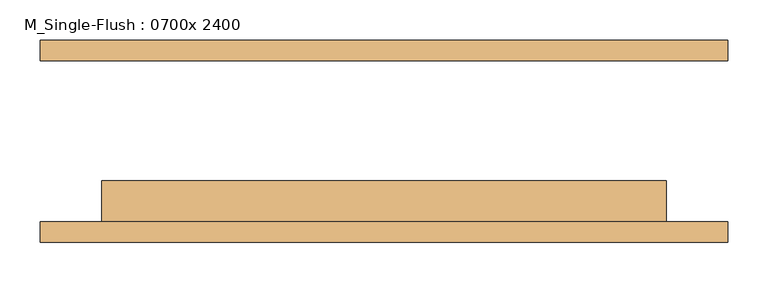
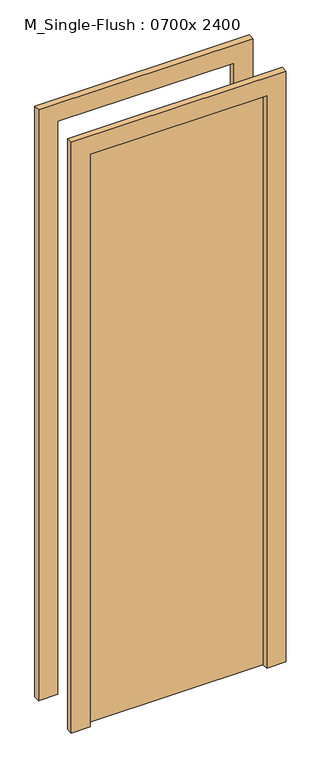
"""IFC4 building model written with IfcOpenShell, lengths in millimetres: door geometry, M_Single-Flush : 0700x 2400."""

from ifc_helpers import new_model, si_unit, frame, origin, origin_with_axes, place, context, project, spatial, polyline, outline, extrude, source, transform, mapped, element, save


def m_single_flush_0700x_2400_d2e98c9f(model_context):
    return source(origin(), model_context, "Body", "SweptSolid", [
        extrude(outline(polyline([(350.0, -49.0), (350.0, -100.0), (-350.0, -100.0), (-350.0, -49.0), (350.0, -49.0)])), origin_with_axes(), (0.0, 0.0, 1.0), 2400.0),
        extrude(outline(polyline([(2476.0, -426.0), (0.0, -426.0), (0.0, -350.0), (2400.0, -350.0), (2400.0, 350.0), (0.0, 350.0), (0.0, 426.0), (2476.0, 426.0), (2476.0, -426.0)])), frame((0.0, -125.0, 0.0), z_axis=(0.0, 1.0, 0.0), x_axis=(0.0, 0.0, 1.0)), (0.0, 0.0, 1.0), 25.0),
        extrude(outline(polyline([(2476.0, 426.0), (2476.0, -426.0), (0.0, -426.0), (0.0, -350.0), (2400.0, -350.0), (2400.0, 350.0), (0.0, 350.0), (0.0, 426.0), (2476.0, 426.0)])), frame((0.0, 100.0, 0.0), z_axis=(0.0, 1.0, 0.0), x_axis=(0.0, 0.0, 1.0)), (0.0, 0.0, 1.0), 25.0),
    ])


if __name__ == "__main__":
    model = new_model("IFC4")
    model_context = context("Model", 3, world=origin())
    ifc_project = project(units=[si_unit("LENGTHUNIT", "METRE", prefix="MILLI")], contexts=[model_context])
    site = spatial("IfcSite", under=ifc_project)
    building = spatial("IfcBuilding", under=site)
    placement = place(None, origin())
    m_single_flush_0700x_2400_shape = m_single_flush_0700x_2400_d2e98c9f(model_context)
    element("IfcDoor", 1, ObjectType="M_Single-Flush : 0700x 2400", at=placement, inside=building, context=model_context, shape_type="MappedRepresentation", body=[
        mapped(m_single_flush_0700x_2400_shape, transform((0.0, 0.0, 0.0), x_axis=(1.0, 0.0, 0.0), y_axis=(0.0, 1.0, 0.0), z_axis=(0.0, 0.0, 1.0))),
    ])
    save(model, "model.ifc")
